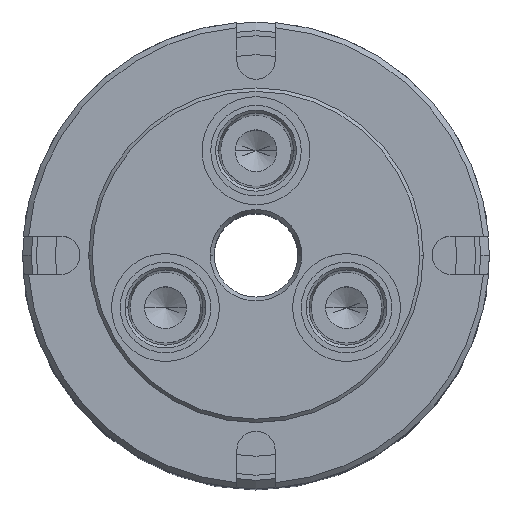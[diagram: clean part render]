
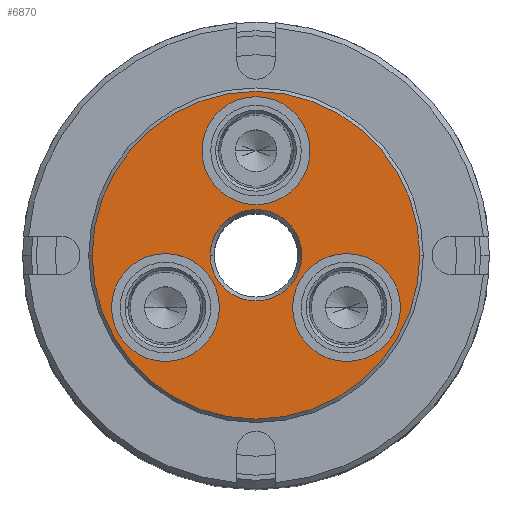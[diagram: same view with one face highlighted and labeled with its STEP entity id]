
A CAD part, top view. The second image highlights one B-rep face of the part: STEP entity #6870.
In plain terms, the highlighted planar face has unit normal (0, 0, 1).
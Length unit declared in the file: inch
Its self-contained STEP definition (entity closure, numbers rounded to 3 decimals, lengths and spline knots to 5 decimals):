
#36 = FACE_OUTER_BOUND ( 'NONE', #5939, .T. ) ;
#37 = FACE_BOUND ( 'NONE', #6026, .T. ) ;
#38 = PLANE ( 'NONE',  #4262 ) ;
#39 = FACE_BOUND ( 'NONE', #5908, .T. ) ;
#40 = FACE_BOUND ( 'NONE', #6024, .T. ) ;
#42 = FACE_BOUND ( 'NONE', #5940, .T. ) ;
#53 = CARTESIAN_POINT ( 'NONE',  ( 0., 0., 0. ) ) ;
#54 = DIRECTION ( 'NONE',  ( 0., 0., -1. ) ) ;
#55 = DIRECTION ( 'NONE',  ( -1., 0., 0. ) ) ;
#100 = CARTESIAN_POINT ( 'NONE',  ( 0., 0.9375, 0. ) ) ;
#101 = DIRECTION ( 'NONE',  ( 0., 0., 1. ) ) ;
#102 = DIRECTION ( 'NONE',  ( 1., 0., 0. ) ) ;
#132 = CARTESIAN_POINT ( 'NONE',  ( 0.8119, -0.46875, 0. ) ) ;
#133 = DIRECTION ( 'NONE',  ( 0., 0., 1. ) ) ;
#134 = DIRECTION ( 'NONE',  ( -0.5, -0.866, 0. ) ) ;
#137 = CARTESIAN_POINT ( 'NONE',  ( 0.8119, -0.46875, 0. ) ) ;
#138 = DIRECTION ( 'NONE',  ( 0., 0., 1. ) ) ;
#139 = DIRECTION ( 'NONE',  ( -0.5, -0.866, 0. ) ) ;
#305 = CARTESIAN_POINT ( 'NONE',  ( 0., 0.9375, 0. ) ) ;
#306 = DIRECTION ( 'NONE',  ( 0., 0., 1. ) ) ;
#307 = DIRECTION ( 'NONE',  ( 1., 0., 0. ) ) ;
#1271 = CARTESIAN_POINT ( 'NONE',  ( -0.8119, -0.46875, 0. ) ) ;
#1272 = DIRECTION ( 'NONE',  ( 0., 0., 1. ) ) ;
#1273 = DIRECTION ( 'NONE',  ( -0.5, 0.866, 0. ) ) ;
#1448 = CARTESIAN_POINT ( 'NONE',  ( 0., 0., 0. ) ) ;
#1449 = DIRECTION ( 'NONE',  ( 0., 0., -1. ) ) ;
#1450 = DIRECTION ( 'NONE',  ( -1., 0., 0. ) ) ;
#1975 = VERTEX_POINT ( 'NONE', #2294 ) ;
#1977 = VERTEX_POINT ( 'NONE', #2296 ) ;
#1989 = VERTEX_POINT ( 'NONE', #2308 ) ;
#2294 = CARTESIAN_POINT ( 'NONE',  ( -1.469, 0., 0. ) ) ;
#2296 = CARTESIAN_POINT ( 'NONE',  ( 1.469, 0., 0. ) ) ;
#2308 = CARTESIAN_POINT ( 'NONE',  ( -0.484, 0.9375, 0. ) ) ;
#2456 = CARTESIAN_POINT ( 'NONE',  ( 0.41, 0., 0. ) ) ;
#2468 = CARTESIAN_POINT ( 'NONE',  ( 0.484, 0.9375, 0. ) ) ;
#2472 = CARTESIAN_POINT ( 'NONE',  ( 1.2959, -0.46875, 0. ) ) ;
#2481 = CARTESIAN_POINT ( 'NONE',  ( 0.3279, -0.46875, 0. ) ) ;
#2482 = CARTESIAN_POINT ( 'NONE',  ( -1.2959, -0.46875, 0. ) ) ;
#2485 = CARTESIAN_POINT ( 'NONE',  ( -0.3279, -0.46875, 0. ) ) ;
#2507 = CARTESIAN_POINT ( 'NONE',  ( -0.41, 0., 0. ) ) ;
#3104 = CIRCLE ( 'NONE', #5012, 0.484 ) ;
#3446 = CARTESIAN_POINT ( 'NONE',  ( 0., 0., 0. ) ) ;
#3447 = DIRECTION ( 'NONE',  ( 0., 0., 1. ) ) ;
#3448 = DIRECTION ( 'NONE',  ( -1., 0., 0. ) ) ;
#3736 = CARTESIAN_POINT ( 'NONE',  ( 0., 0., 0. ) ) ;
#3737 = DIRECTION ( 'NONE',  ( 0., 0., -1. ) ) ;
#3738 = DIRECTION ( 'NONE',  ( -1., 0., 0. ) ) ;
#4017 = CARTESIAN_POINT ( 'NONE',  ( 0., 0., 0. ) ) ;
#4018 = DIRECTION ( 'NONE',  ( 0., 0., 1. ) ) ;
#4019 = DIRECTION ( 'NONE',  ( -1., 0., 0. ) ) ;
#4022 = CARTESIAN_POINT ( 'NONE',  ( -0.8119, -0.46875, 0. ) ) ;
#4023 = DIRECTION ( 'NONE',  ( 0., 0., 1. ) ) ;
#4024 = DIRECTION ( 'NONE',  ( -0.5, 0.866, 0. ) ) ;
#4262 = AXIS2_PLACEMENT_3D ( 'NONE', #53, #54, #55 ) ;
#4284 = CIRCLE ( 'NONE', #4596, 0.484 ) ;
#4303 = AXIS2_PLACEMENT_3D ( 'NONE', #305, #306, #307 ) ;
#4356 = AXIS2_PLACEMENT_3D ( 'NONE', #100, #101, #102 ) ;
#4419 = CIRCLE ( 'NONE', #4356, 0.484 ) ;
#4436 = CIRCLE ( 'NONE', #4303, 0.484 ) ;
#4551 = AXIS2_PLACEMENT_3D ( 'NONE', #1448, #1449, #1450 ) ;
#4596 = AXIS2_PLACEMENT_3D ( 'NONE', #132, #133, #134 ) ;
#4636 = CIRCLE ( 'NONE', #4551, 0.41 ) ;
#4647 = CIRCLE ( 'NONE', #4667, 0.484 ) ;
#4667 = AXIS2_PLACEMENT_3D ( 'NONE', #137, #138, #139 ) ;
#5012 = AXIS2_PLACEMENT_3D ( 'NONE', #1271, #1272, #1273 ) ;
#5052 = VERTEX_POINT ( 'NONE', #2456 ) ;
#5064 = VERTEX_POINT ( 'NONE', #2468 ) ;
#5068 = VERTEX_POINT ( 'NONE', #2472 ) ;
#5077 = VERTEX_POINT ( 'NONE', #2481 ) ;
#5078 = VERTEX_POINT ( 'NONE', #2482 ) ;
#5081 = VERTEX_POINT ( 'NONE', #2485 ) ;
#5103 = VERTEX_POINT ( 'NONE', #2507 ) ;
#5199 = CIRCLE ( 'NONE', #5364, 1.469 ) ;
#5341 = CIRCLE ( 'NONE', #5473, 0.41 ) ;
#5347 = AXIS2_PLACEMENT_3D ( 'NONE', #4022, #4023, #4024 ) ;
#5364 = AXIS2_PLACEMENT_3D ( 'NONE', #4017, #4018, #4019 ) ;
#5473 = AXIS2_PLACEMENT_3D ( 'NONE', #3736, #3737, #3738 ) ;
#5480 = CIRCLE ( 'NONE', #5347, 0.484 ) ;
#5482 = CIRCLE ( 'NONE', #5514, 1.469 ) ;
#5514 = AXIS2_PLACEMENT_3D ( 'NONE', #3446, #3447, #3448 ) ;
#5712 = ORIENTED_EDGE ( 'NONE', *, *, #6577, .T. ) ;
#5713 = ORIENTED_EDGE ( 'NONE', *, *, #6767, .T. ) ;
#5714 = ORIENTED_EDGE ( 'NONE', *, *, #6729, .F. ) ;
#5715 = ORIENTED_EDGE ( 'NONE', *, *, #6622, .F. ) ;
#5716 = ORIENTED_EDGE ( 'NONE', *, *, #6892, .F. ) ;
#5717 = ORIENTED_EDGE ( 'NONE', *, *, #6893, .F. ) ;
#5782 = ORIENTED_EDGE ( 'NONE', *, *, #6922, .F. ) ;
#5783 = ORIENTED_EDGE ( 'NONE', *, *, #6882, .F. ) ;
#5784 = ORIENTED_EDGE ( 'NONE', *, *, #6621, .T. ) ;
#5785 = ORIENTED_EDGE ( 'NONE', *, *, #6520, .T. ) ;
#5908 = EDGE_LOOP ( 'NONE', ( #5714, #5715 ) ) ;
#5939 = EDGE_LOOP ( 'NONE', ( #5784, #5785 ) ) ;
#5940 = EDGE_LOOP ( 'NONE', ( #5782, #5783 ) ) ;
#6024 = EDGE_LOOP ( 'NONE', ( #5716, #5717 ) ) ;
#6026 = EDGE_LOOP ( 'NONE', ( #5712, #5713 ) ) ;
#6520 = EDGE_CURVE ( 'NONE', #1977, #1975, #5482, .T. ) ;
#6577 = EDGE_CURVE ( 'NONE', #5052, #5103, #5341, .T. ) ;
#6621 = EDGE_CURVE ( 'NONE', #1975, #1977, #5199, .T. ) ;
#6622 = EDGE_CURVE ( 'NONE', #5078, #5081, #5480, .T. ) ;
#6729 = EDGE_CURVE ( 'NONE', #5081, #5078, #3104, .T. ) ;
#6767 = EDGE_CURVE ( 'NONE', #5103, #5052, #4636, .T. ) ;
#6870 = ADVANCED_FACE ( 'NONE', ( #37, #39, #40, #42, #36 ), #38, .F. ) ;
#6882 = EDGE_CURVE ( 'NONE', #1989, #5064, #4419, .T. ) ;
#6892 = EDGE_CURVE ( 'NONE', #5068, #5077, #4284, .T. ) ;
#6893 = EDGE_CURVE ( 'NONE', #5077, #5068, #4647, .T. ) ;
#6922 = EDGE_CURVE ( 'NONE', #5064, #1989, #4436, .T. ) ;
